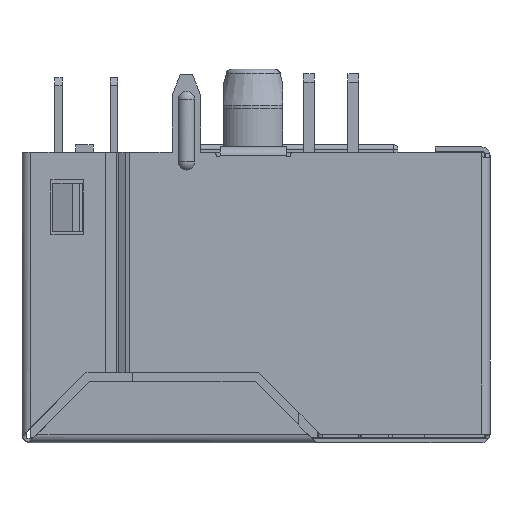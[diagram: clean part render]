
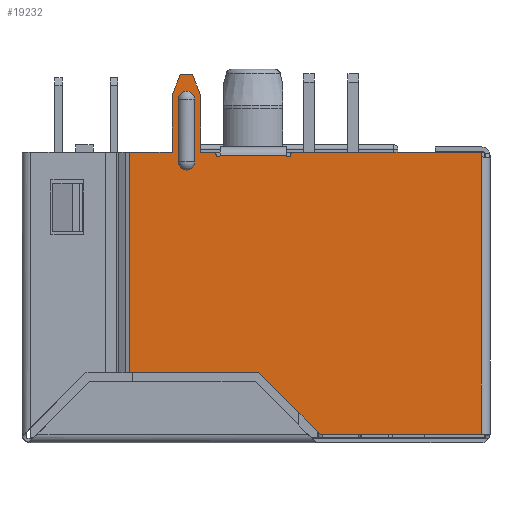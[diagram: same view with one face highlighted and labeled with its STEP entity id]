
A CAD part, left-side view. The second image highlights one B-rep face of the part: STEP entity #19232.
In plain terms, the highlighted planar face has unit normal (-1, 0, 0).
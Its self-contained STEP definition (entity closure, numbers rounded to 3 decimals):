
#1257=DIRECTION('',(0.,-0.362,-0.932));
#1258=VECTOR('',#1257,1.019);
#1259=CARTESIAN_POINT('',(-7.975,13.569,16.8));
#1260=LINE('',#1259,#1258);
#1261=CARTESIAN_POINT('',(-7.975,12.6,13.15));
#1262=DIRECTION('',(1.,0.,0.));
#1263=DIRECTION('',(0.,0.,1.));
#1264=AXIS2_PLACEMENT_3D('',#1261,#1262,#1263);
#1266=CARTESIAN_POINT('',(-7.975,12.4,13.15));
#1267=DIRECTION('',(-1.,0.,0.));
#1268=DIRECTION('',(0.,1.,0.));
#1269=AXIS2_PLACEMENT_3D('',#1266,#1267,#1268);
#1271=CARTESIAN_POINT('',(-7.975,9.2,13.15));
#1272=DIRECTION('',(-1.,0.,0.));
#1273=DIRECTION('',(0.,0.866,-0.5));
#1274=AXIS2_PLACEMENT_3D('',#1271,#1272,#1273);
#1276=CARTESIAN_POINT('',(-7.975,9.,13.15));
#1277=DIRECTION('',(1.,0.,0.));
#1278=DIRECTION('',(0.,1.,0.));
#1279=AXIS2_PLACEMENT_3D('',#1276,#1277,#1278);
#1281=DIRECTION('',(0.,1.,0.));
#1282=VECTOR('',#1281,7.35);
#1283=CARTESIAN_POINT('',(-7.975,0.4,0.4));
#1284=LINE('',#1283,#1282);
#1285=DIRECTION('',(0.,0.707,0.707));
#1286=VECTOR('',#1285,3.96);
#1287=CARTESIAN_POINT('',(-7.975,7.75,0.4));
#1288=LINE('',#1287,#1286);
#1289=DIRECTION('',(0.,0.,1.));
#1290=VECTOR('',#1289,2.6);
#1291=CARTESIAN_POINT('',(-7.975,14.5,13.25));
#1292=LINE('',#1291,#1290);
#1293=DIRECTION('',(0.,-0.362,0.932));
#1294=VECTOR('',#1293,1.019);
#1295=CARTESIAN_POINT('',(-7.975,14.5,15.85));
#1296=LINE('',#1295,#1294);
#1301=DIRECTION('',(0.,-1.,0.));
#1302=VECTOR('',#1301,0.561);
#1303=CARTESIAN_POINT('',(-7.975,14.131,16.8));
#1304=LINE('',#1303,#1302);
#1313=DIRECTION('',(0.,0.,1.));
#1314=VECTOR('',#1313,2.6);
#1315=CARTESIAN_POINT('',(-7.975,13.2,13.25));
#1316=LINE('',#1315,#1314);
#1325=DIRECTION('',(0.,-1.,0.));
#1326=VECTOR('',#1325,0.6);
#1327=CARTESIAN_POINT('',(-7.975,13.2,13.25));
#1328=LINE('',#1327,#1326);
#1443=DIRECTION('',(0.,1.,0.));
#1444=VECTOR('',#1443,3.027);
#1445=CARTESIAN_POINT('',(-7.975,9.287,13.1));
#1446=LINE('',#1445,#1444);
#1467=DIRECTION('',(0.,-1.,0.));
#1468=VECTOR('',#1467,8.6);
#1469=CARTESIAN_POINT('',(-7.975,9.,13.25));
#1470=LINE('',#1469,#1468);
#1471=DIRECTION('',(0.,0.,1.));
#1472=VECTOR('',#1471,0.05);
#1473=CARTESIAN_POINT('',(-7.975,0.4,13.2));
#1474=LINE('',#1473,#1472);
#1601=DIRECTION('',(0.,-1.,0.));
#1602=VECTOR('',#1601,5.89);
#1603=CARTESIAN_POINT('',(-7.975,16.44,3.2));
#1604=LINE('',#1603,#1602);
#1645=DIRECTION('',(0.,-1.,0.));
#1646=VECTOR('',#1645,1.94);
#1647=CARTESIAN_POINT('',(-7.975,16.44,13.25));
#1648=LINE('',#1647,#1646);
#1677=DIRECTION('',(0.,0.,-1.));
#1678=VECTOR('',#1677,10.05);
#1679=CARTESIAN_POINT('',(-7.975,16.44,13.25));
#1680=LINE('',#1679,#1678);
#1900=DIRECTION('',(0.,0.,1.));
#1901=VECTOR('',#1900,12.8);
#1902=CARTESIAN_POINT('',(-7.975,0.4,0.4));
#1903=LINE('',#1902,#1901);
#13333=DIRECTION('',(0.,0.,1.));
#13334=VECTOR('',#13333,2.85);
#13335=CARTESIAN_POINT('',(-7.975,14.224,
12.819));
#13336=LINE('',#13335,#13334);
#13345=DIRECTION('',(0.,0.,-1.));
#13346=VECTOR('',#13345,2.85);
#13347=CARTESIAN_POINT('',(-7.975,13.476,
15.669));
#13348=LINE('',#13347,#13346);
#13365=CARTESIAN_POINT('',(-7.975,13.85,15.669));
#13366=DIRECTION('',(1.,0.,0.));
#13367=DIRECTION('',(0.,1.,0.001));
#13368=AXIS2_PLACEMENT_3D('',#13365,#13366,#13367);
#13370=CARTESIAN_POINT('',(-7.975,13.85,15.669));
#13371=DIRECTION('',(1.,0.,0.));
#13372=DIRECTION('',(0.,0.,1.));
#13373=AXIS2_PLACEMENT_3D('',#13370,#13371,#13372);
#13380=CARTESIAN_POINT('',(-7.975,13.85,12.819));
#13381=DIRECTION('',(1.,0.,0.));
#13382=DIRECTION('',(0.,-1.,0.));
#13383=AXIS2_PLACEMENT_3D('',#13380,#13381,#13382);
#13385=CARTESIAN_POINT('',(-7.975,13.85,12.819));
#13386=DIRECTION('',(1.,0.,0.));
#13387=DIRECTION('',(0.,0.,-1.));
#13388=AXIS2_PLACEMENT_3D('',#13385,#13386,#13387);
#15889=CARTESIAN_POINT('',(-7.975,0.4,0.4));
#15890=VERTEX_POINT('',#15889);
#15891=CARTESIAN_POINT('',(-7.975,0.4,13.2));
#15892=VERTEX_POINT('',#15891);
#15898=CARTESIAN_POINT('',(-7.975,7.75,0.4));
#15899=VERTEX_POINT('',#15898);
#15934=CARTESIAN_POINT('',(-7.975,14.5,13.25));
#15935=CARTESIAN_POINT('',(-7.975,14.5,15.85));
#15936=VERTEX_POINT('',#15934);
#15937=VERTEX_POINT('',#15935);
#15938=CARTESIAN_POINT('',(-7.975,14.131,16.8));
#15939=CARTESIAN_POINT('',(-7.975,13.569,16.8));
#15940=VERTEX_POINT('',#15938);
#15941=VERTEX_POINT('',#15939);
#15942=CARTESIAN_POINT('',(-7.975,16.44,13.25));
#15943=VERTEX_POINT('',#15942);
#15944=CARTESIAN_POINT('',(-7.975,16.44,3.2));
#15945=VERTEX_POINT('',#15944);
#15946=CARTESIAN_POINT('',(-7.975,10.55,3.2));
#15947=VERTEX_POINT('',#15946);
#15948=CARTESIAN_POINT('',(-7.975,0.4,13.25));
#15949=VERTEX_POINT('',#15948);
#15950=CARTESIAN_POINT('',(-7.975,9.,13.25));
#15951=VERTEX_POINT('',#15950);
#15952=CARTESIAN_POINT('',(-7.975,9.1,13.15));
#15953=VERTEX_POINT('',#15952);
#15954=CARTESIAN_POINT('',(-7.975,9.287,13.1));
#15955=VERTEX_POINT('',#15954);
#15956=CARTESIAN_POINT('',(-7.975,12.313,13.1));
#15957=VERTEX_POINT('',#15956);
#15958=CARTESIAN_POINT('',(-7.975,12.5,13.15));
#15959=VERTEX_POINT('',#15958);
#15960=CARTESIAN_POINT('',(-7.975,12.6,13.25));
#15961=VERTEX_POINT('',#15960);
#15962=CARTESIAN_POINT('',(-7.975,13.2,13.25));
#15963=VERTEX_POINT('',#15962);
#15964=CARTESIAN_POINT('',(-7.975,13.2,15.85));
#15965=VERTEX_POINT('',#15964);
#15966=CARTESIAN_POINT('',(-7.975,14.224,
12.819));
#15967=CARTESIAN_POINT('',(-7.975,14.224,
15.669));
#15968=VERTEX_POINT('',#15966);
#15969=VERTEX_POINT('',#15967);
#15970=CARTESIAN_POINT('',(-7.975,13.85,16.043));
#15971=VERTEX_POINT('',#15970);
#15972=CARTESIAN_POINT('',(-7.975,13.476,15.669));
#15973=VERTEX_POINT('',#15972);
#15974=CARTESIAN_POINT('',(-7.975,13.476,
12.819));
#15975=VERTEX_POINT('',#15974);
#15976=CARTESIAN_POINT('',(-7.975,13.85,12.445));
#15977=VERTEX_POINT('',#15976);
#19175=CARTESIAN_POINT('',(-7.975,8.42,8.6));
#19176=DIRECTION('',(1.,0.,0.));
#19177=DIRECTION('',(0.,-1.,0.));
#19178=AXIS2_PLACEMENT_3D('',#19175,#19176,#19177);
#19179=PLANE('',#19178);
#19181=ORIENTED_EDGE('',*,*,#19180,.T.);
#19183=ORIENTED_EDGE('',*,*,#19182,.T.);
#19185=ORIENTED_EDGE('',*,*,#19184,.F.);
#19187=ORIENTED_EDGE('',*,*,#19186,.T.);
#19189=ORIENTED_EDGE('',*,*,#19188,.T.);
#19191=ORIENTED_EDGE('',*,*,#19190,.T.);
#19193=ORIENTED_EDGE('',*,*,#19192,.F.);
#19194=ORIENTED_EDGE('',*,*,#19107,.T.);
#19196=ORIENTED_EDGE('',*,*,#19195,.T.);
#19198=ORIENTED_EDGE('',*,*,#19197,.T.);
#19200=ORIENTED_EDGE('',*,*,#19199,.F.);
#19202=ORIENTED_EDGE('',*,*,#19201,.F.);
#19204=ORIENTED_EDGE('',*,*,#19203,.T.);
#19206=ORIENTED_EDGE('',*,*,#19205,.T.);
#19208=ORIENTED_EDGE('',*,*,#19207,.F.);
#19210=ORIENTED_EDGE('',*,*,#19209,.F.);
#19212=ORIENTED_EDGE('',*,*,#19211,.T.);
#19213=ORIENTED_EDGE('',*,*,#19165,.T.);
#19215=ORIENTED_EDGE('',*,*,#19214,.T.);
#19216=EDGE_LOOP('',(#19181,#19183,#19185,#19187,#19189,#19191,#19193,#19194,
#19196,#19198,#19200,#19202,#19204,#19206,#19208,#19210,#19212,#19213,#19215));
#19217=FACE_OUTER_BOUND('',#19216,.F.);
#19219=ORIENTED_EDGE('',*,*,#19218,.F.);
#19221=ORIENTED_EDGE('',*,*,#19220,.F.);
#19223=ORIENTED_EDGE('',*,*,#19222,.F.);
#19225=ORIENTED_EDGE('',*,*,#19224,.F.);
#19227=ORIENTED_EDGE('',*,*,#19226,.F.);
#19229=ORIENTED_EDGE('',*,*,#19228,.F.);
#19230=EDGE_LOOP('',(#19219,#19221,#19223,#19225,#19227,#19229));
#19231=FACE_BOUND('',#19230,.F.);
#19232=ADVANCED_FACE('',(#19217,#19231),#19179,.F.);
#1265=CIRCLE('',#1264,0.1);
#1270=CIRCLE('',#1269,0.1);
#1275=CIRCLE('',#1274,0.1);
#1280=CIRCLE('',#1279,0.1);
#13369=CIRCLE('',#13368,0.374);
#13374=CIRCLE('',#13373,0.374);
#13384=CIRCLE('',#13383,0.374);
#13389=CIRCLE('',#13388,0.374);
#19107=EDGE_CURVE('',#15955,#15953,#1275,.T.);
#19165=EDGE_CURVE('',#15936,#15937,#1292,.T.);
#19180=EDGE_CURVE('',#15940,#15941,#1304,.T.);
#19182=EDGE_CURVE('',#15941,#15965,#1260,.T.);
#19184=EDGE_CURVE('',#15963,#15965,#1316,.T.);
#19186=EDGE_CURVE('',#15963,#15961,#1328,.T.);
#19188=EDGE_CURVE('',#15961,#15959,#1265,.T.);
#19190=EDGE_CURVE('',#15959,#15957,#1270,.T.);
#19192=EDGE_CURVE('',#15955,#15957,#1446,.T.);
#19195=EDGE_CURVE('',#15953,#15951,#1280,.T.);
#19197=EDGE_CURVE('',#15951,#15949,#1470,.T.);
#19199=EDGE_CURVE('',#15892,#15949,#1474,.T.);
#19201=EDGE_CURVE('',#15890,#15892,#1903,.T.);
#19203=EDGE_CURVE('',#15890,#15899,#1284,.T.);
#19205=EDGE_CURVE('',#15899,#15947,#1288,.T.);
#19207=EDGE_CURVE('',#15945,#15947,#1604,.T.);
#19209=EDGE_CURVE('',#15943,#15945,#1680,.T.);
#19211=EDGE_CURVE('',#15943,#15936,#1648,.T.);
#19214=EDGE_CURVE('',#15937,#15940,#1296,.T.);
#19218=EDGE_CURVE('',#15968,#15969,#13336,.T.);
#19220=EDGE_CURVE('',#15977,#15968,#13389,.T.);
#19222=EDGE_CURVE('',#15975,#15977,#13384,.T.);
#19224=EDGE_CURVE('',#15973,#15975,#13348,.T.);
#19226=EDGE_CURVE('',#15971,#15973,#13374,.T.);
#19228=EDGE_CURVE('',#15969,#15971,#13369,.T.);
